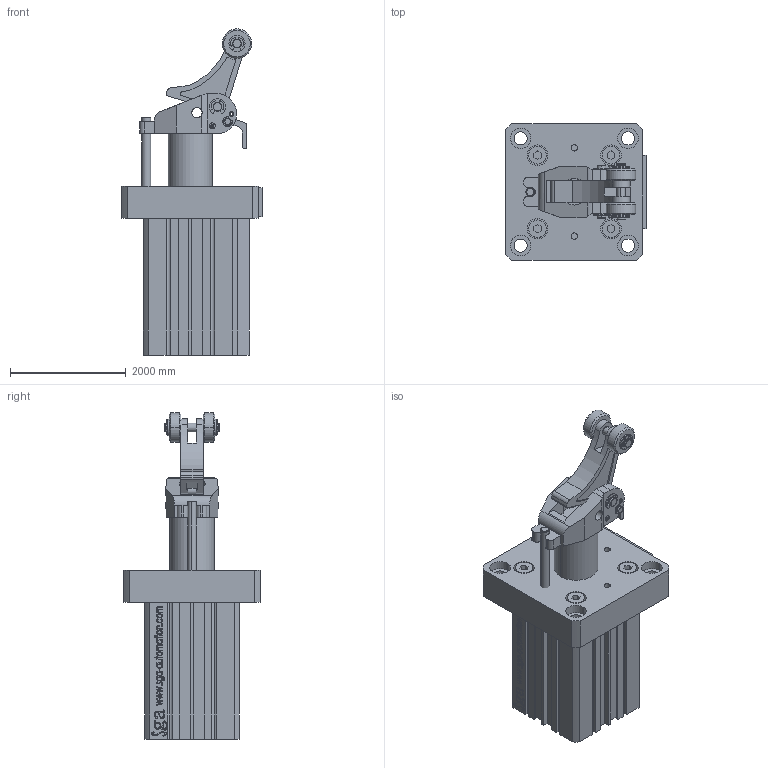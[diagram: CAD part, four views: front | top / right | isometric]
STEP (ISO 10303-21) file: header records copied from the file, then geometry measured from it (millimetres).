
FILE_DESCRIPTION (( 'STEP AP214' ), '1' );
FILE_NAME ('gtf 50.STEP', '2011-11-16T13:27:31', ( 'Christophe Gaillard' ), ( 'SGA' ), 'SwSTEP 2.0', 'SolidWorks 2010', '' );
FILE_SCHEMA (( 'AUTOMOTIVE_DESIGN' ));
Length unit declared in the file: millimetre
Products named in the file (1): gtf 50
Bounding box: 2420.62 x 2362.2 x 5638.8 mm (x, y, z)
Volume: 10210578095.1 mm3; surface area: 78366693 mm2
Topology: 26 solids, 26 shells, 1124 faces, 2952 edges, 1954 vertices
Faces by surface type: plane 519, cylinder 335, bspline 236, cone 34
Entity records: 49570 total; most frequent: CARTESIAN_POINT 22372, ORIENTED_EDGE 5904, DIRECTION 4950, EDGE_CURVE 2952, VERTEX_POINT 1954, VECTOR 1758, LINE 1758, AXIS2_PLACEMENT_3D 1596
